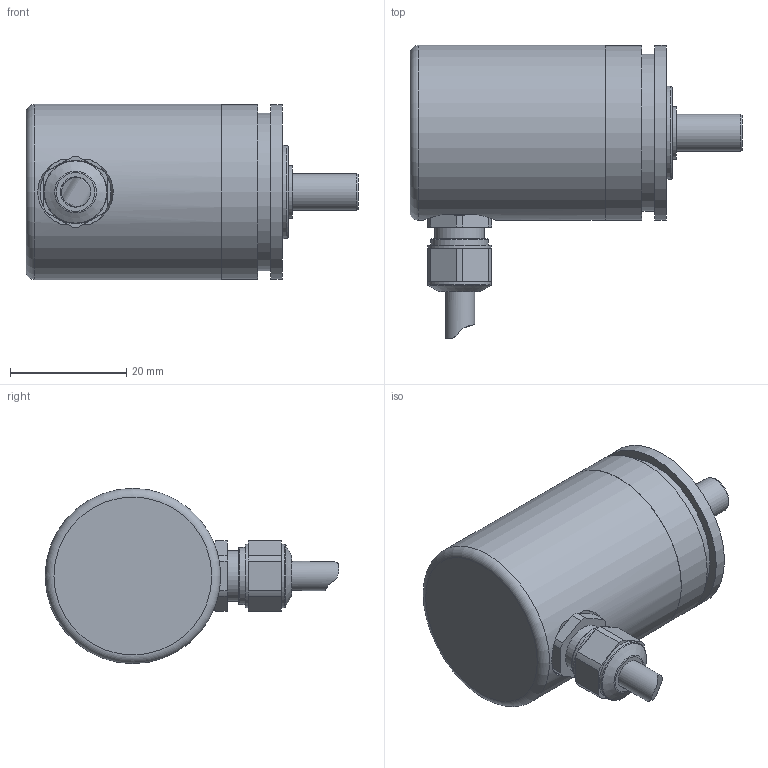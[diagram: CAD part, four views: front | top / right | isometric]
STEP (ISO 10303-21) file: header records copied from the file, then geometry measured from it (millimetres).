
FILE_DESCRIPTION(/* description */ ('Unknown'),/* implementation_level */ '2;1');
FILE_NAME(/* name */ 'D0001002340-EAM300-SM$.5Lxx.xxxx0.A-SMd6.35replace',/* time_stamp */ '2021-05-04T15:06:56+02:00',/* author */ ('Unknown'),/* organization */ ('Baumer'),/* preprocessor_version */ 'ST-DEVELOPER v16.7',/* originating_system */ 'Solid Edge',/* authorisation */ 'Unknown');
FILE_SCHEMA (('AUTOMOTIVE_DESIGN {1 0 10303 214 3 1 1}'));
Length unit declared in the file: millimetre
Products named in the file (1): D0001002340-EAM300-SM$.5Lxx.xxxx0.A-SMd6.35
Bounding box: 57 x 50.42 x 30.1 mm (x, y, z)
Volume: 32595.1 mm3; surface area: 7348.8 mm2
Topology: 1 solids, 1 shells, 96 faces, 193 edges, 123 vertices
Faces by surface type: cylinder 38, plane 37, cone 14, torus 6, bspline 1
Full cylindrical faces by diameter (mm): 2.5 x6, 5 x1, 5.2 x1, 6.35 x1, 8 x1, 8.596 x1, 9 x2, 9.15 x1, 9.6 x1, 9.794 x1, 10 x1, 10.9 x2, 14 x1, 14.4 x1, 16 x1, 27 x1, 30 x2, 30.1 x1
Entity records: 3051 total; most frequent: CARTESIAN_POINT 457, DIRECTION 418, ORIENTED_EDGE 300, AXIS2_PLACEMENT_3D 187, EDGE_LOOP 158, FACE_BOUND 158, EDGE_CURVE 150, VERTEX_POINT 118
